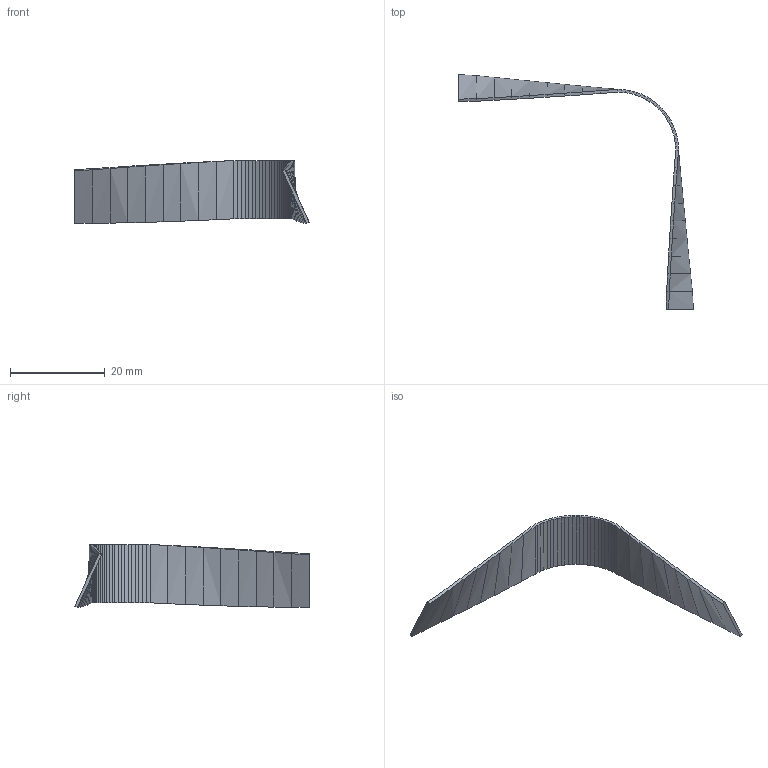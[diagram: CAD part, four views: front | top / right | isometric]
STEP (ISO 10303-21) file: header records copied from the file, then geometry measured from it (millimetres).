
FILE_DESCRIPTION(('Open CASCADE Model'),'2;1');
FILE_NAME('SOLID','2026-10-21T18:57:52',('Author'),('Open CASCADE'), 'Open CASCADE STEP processor 8.0','build123d','Unknown');
FILE_SCHEMA(('AUTOMOTIVE_DESIGN { 1 0 10303 214 1 1 1 1 }'));
Length unit declared in the file: millimetre
Products named in the file (2): SOLID
Assembly tree (1 placements, depth 2):
  SOLID
    SOLID
Bounding box: 49.53 x 49.53 x 13.28 mm (x, y, z)
Volume: 640.5 mm3; surface area: 2256.6 mm2
Topology: 1 solids, 1 shells, 170 faces, 340 edges, 172 vertices
Faces by surface type: bspline 120, plane 50
Entity records: 8276 total; most frequent: CARTESIAN_POINT 1988, DIRECTION 860, LINE 756, VECTOR 756, ORIENTED_EDGE 680, PCURVE 680, DEFINITIONAL_REPRESENTATION 680, EDGE_CURVE 340
